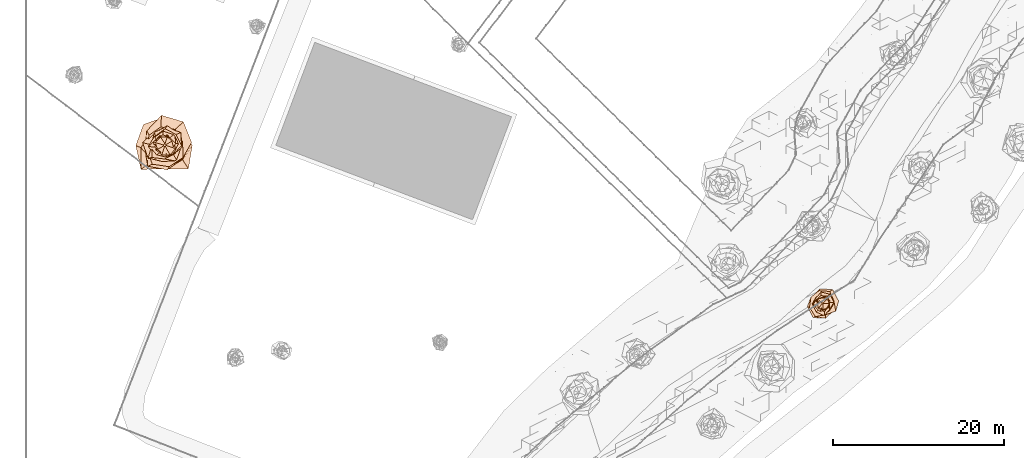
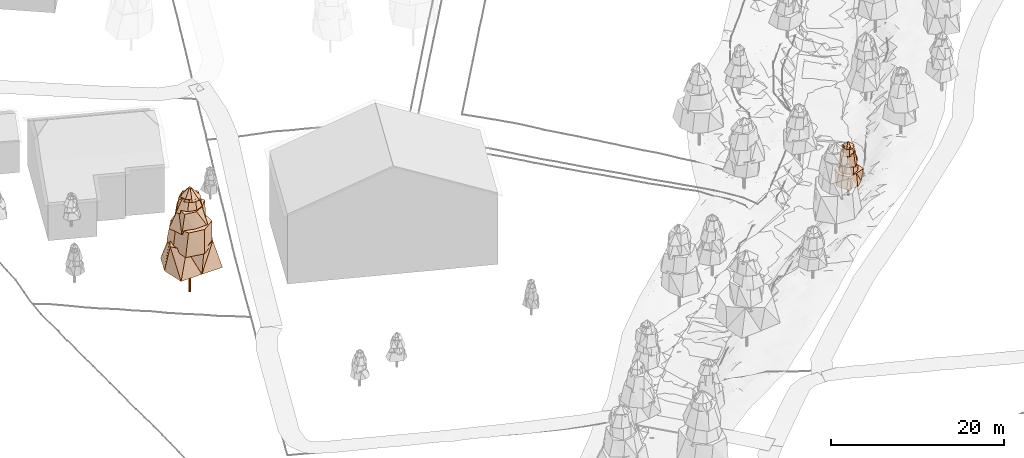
# Not in any storey, part 29 of 88: 2 geographic elements.
"""IFC4 model written with IfcOpenShell, lengths in metres."""

from ifc_helpers import new_model, si_unit, frame, origin_with_axes, place, context, subcontext, project, spatial, circle, extrude, faceted_brep, element, save


model = new_model("IFC4")

# Units and contexts
model_context = context("Model", 3, precision=1e-05, world=origin_with_axes())
body_context = subcontext(model_context, "Body", "Model", "MODEL_VIEW")
ifc_project = project(units=[si_unit("LENGTHUNIT", "METRE"), si_unit("AREAUNIT", "SQUARE_METRE"), si_unit("VOLUMEUNIT", "CUBIC_METRE"), si_unit("PLANEANGLEUNIT", "RADIAN")], contexts=[model_context])

# Sites
site_1_placement = place(None, origin_with_axes())
site_1 = spatial("IfcSite", under=ifc_project, at=site_1_placement, Name="CH907857693633", CompositionType="ELEMENT")
site_2_placement = place(None, origin_with_axes())
site_2 = spatial("IfcSite", under=site_1, at=site_2_placement, Name="Vegetation", CompositionType="ELEMENT")

# Geographic element
geographic_element_1_placement = place(None, frame((16.2100000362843, 69.5160034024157, 3.28009033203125), z_axis=(0.0, 0.0, 1.0), x_axis=(1.0, 0.0, 0.0)))
element("IfcGeographicElement", 1, at=geographic_element_1_placement, inside=site_2, Name="Tree_einzelbaum", ObjectType="VEGETATION", PredefinedType="USERDEFINED", context=body_context, shape_type="Brep", body=[
    extrude(circle(Radius=0.15), origin_with_axes(), (0.0, 0.0, 1.0), 4.0945993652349),
    faceted_brep([(2.78228915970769, -2.74959575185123, 4.0945993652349), (0.0163897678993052, -2.77322909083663, 4.0945993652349), (-2.78776216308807, -2.82090937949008, 4.0945993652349), (-3.38822057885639, -0.0200243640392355, 4.0945993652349), (-2.48184530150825, 2.45268227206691, 4.0945993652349), (-0.0187156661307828, 3.16678247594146, 4.0945993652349), (1.96377597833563, 1.98712578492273, 4.0945993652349), (3.23163587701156, 0.0190989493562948, 4.0945993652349), (2.9844214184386, 0.317266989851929, 7.45382912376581), (1.58185756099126, 1.95819211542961, 7.45382912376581), (-0.337566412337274, 3.17537110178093, 7.45382912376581), (-1.77858985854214, 1.43677210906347, 7.45382912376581), (-2.77864873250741, -0.295391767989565, 7.45382912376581), (-1.46719344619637, -1.8162486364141, 7.45382912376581), (0.293794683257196, -2.76362550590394, 7.45382912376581), (2.09579653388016, -1.69301651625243, 7.45382912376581), (3.23163587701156, 0.0190989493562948, 4.0945993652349), (1.96377597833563, 1.98712578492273, 4.0945993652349), (1.58185756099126, 1.95819211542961, 7.45382912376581), (2.9844214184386, 0.317266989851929, 7.45382912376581), (1.96377597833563, 1.98712578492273, 4.0945993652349), (-0.0187156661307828, 3.16678247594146, 4.0945993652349), (-0.337566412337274, 3.17537110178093, 7.45382912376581), (1.58185756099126, 1.95819211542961, 7.45382912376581), (-0.0187156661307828, 3.16678247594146, 4.0945993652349), (-2.48184530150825, 2.45268227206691, 4.0945993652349), (-1.77858985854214, 1.43677210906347, 7.45382912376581), (-0.337566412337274, 3.17537110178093, 7.45382912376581), (-2.48184530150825, 2.45268227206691, 4.0945993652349), (-3.38822057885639, -0.0200243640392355, 4.0945993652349), (-2.77864873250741, -0.295391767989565, 7.45382912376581), (-1.77858985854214, 1.43677210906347, 7.45382912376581), (-3.38822057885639, -0.0200243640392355, 4.0945993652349), (-2.78776216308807, -2.82090937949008, 4.0945993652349), (-1.46719344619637, -1.8162486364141, 7.45382912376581), (-2.77864873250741, -0.295391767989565, 7.45382912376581), (-2.78776216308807, -2.82090937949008, 4.0945993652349), (0.0163897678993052, -2.77322909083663, 4.0945993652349), (0.293794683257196, -2.76362550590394, 7.45382912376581), (-1.46719344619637, -1.8162486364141, 7.45382912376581), (0.0163897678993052, -2.77322909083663, 4.0945993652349), (2.78228915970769, -2.74959575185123, 4.0945993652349), (2.09579653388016, -1.69301651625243, 7.45382912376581), (0.293794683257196, -2.76362550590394, 7.45382912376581), (2.78228915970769, -2.74959575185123, 4.0945993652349), (3.23163587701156, 0.0190989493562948, 4.0945993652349), (2.9844214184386, 0.317266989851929, 7.45382912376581), (2.09579653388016, -1.69301651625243, 7.45382912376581)], [[[0, 1, 2, 3, 4, 5, 6, 7]], [[8, 9, 10, 11, 12, 13, 14, 15]], [[16, 17, 18, 19]], [[20, 21, 22, 23]], [[24, 25, 26, 27]], [[28, 29, 30, 31]], [[32, 33, 34, 35]], [[36, 37, 38, 39]], [[40, 41, 42, 43]], [[44, 45, 46, 47]]]),
    faceted_brep([(2.02600021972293, -1.62996782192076, 6.94994465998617), (0.312094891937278, -2.88110002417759, 6.94994465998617), (-1.97864971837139, -2.45940116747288, 6.94994465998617), (-2.37405962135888, -0.25716978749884, 6.94994465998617), (-2.09876587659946, 1.6885096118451, 6.94994465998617), (-0.380197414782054, 3.50978759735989, 6.94994465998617), (2.20308797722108, 2.73837106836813, 6.94994465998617), (3.15018583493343, 0.341243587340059, 6.94994465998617), (2.08651934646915, 0.440156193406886, 10.0796045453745), (1.21232558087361, 1.86055754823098, 10.0796045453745), (-0.453337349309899, 2.1490033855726, 10.0796045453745), (-1.82984216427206, 1.19231166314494, 10.0796045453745), (-2.14084580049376, -0.451616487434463, 10.0796045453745), (-1.4443806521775, -2.21669274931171, 10.0796045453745), (0.529818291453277, -2.51155415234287, 10.0796045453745), (2.16187846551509, -1.40866406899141, 10.0796045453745), (3.15018583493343, 0.341243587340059, 6.94994465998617), (2.20308797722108, 2.73837106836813, 6.94994465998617), (1.21232558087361, 1.86055754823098, 10.0796045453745), (2.08651934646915, 0.440156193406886, 10.0796045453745), (2.20308797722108, 2.73837106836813, 6.94994465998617), (-0.380197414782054, 3.50978759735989, 6.94994465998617), (-0.453337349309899, 2.1490033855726, 10.0796045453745), (1.21232558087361, 1.86055754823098, 10.0796045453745), (-0.380197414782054, 3.50978759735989, 6.94994465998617), (-2.09876587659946, 1.6885096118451, 6.94994465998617), (-1.82984216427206, 1.19231166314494, 10.0796045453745), (-0.453337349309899, 2.1490033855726, 10.0796045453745), (-2.09876587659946, 1.6885096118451, 6.94994465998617), (-2.37405962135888, -0.25716978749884, 6.94994465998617), (-2.14084580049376, -0.451616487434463, 10.0796045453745), (-1.82984216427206, 1.19231166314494, 10.0796045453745), (-2.37405962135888, -0.25716978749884, 6.94994465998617), (-1.97864971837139, -2.45940116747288, 6.94994465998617), (-1.4443806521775, -2.21669274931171, 10.0796045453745), (-2.14084580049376, -0.451616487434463, 10.0796045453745), (-1.97864971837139, -2.45940116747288, 6.94994465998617), (0.312094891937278, -2.88110002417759, 6.94994465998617), (0.529818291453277, -2.51155415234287, 10.0796045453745), (-1.4443806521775, -2.21669274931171, 10.0796045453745), (0.312094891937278, -2.88110002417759, 6.94994465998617), (2.02600021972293, -1.62996782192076, 6.94994465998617), (2.16187846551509, -1.40866406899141, 10.0796045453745), (0.529818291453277, -2.51155415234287, 10.0796045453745), (2.02600021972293, -1.62996782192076, 6.94994465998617), (3.15018583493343, 0.341243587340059, 6.94994465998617), (2.08651934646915, 0.440156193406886, 10.0796045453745), (2.16187846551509, -1.40866406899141, 10.0796045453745)], [[[0, 1, 2, 3, 4, 5, 6, 7]], [[8, 9, 10, 11, 12, 13, 14, 15]], [[16, 17, 18, 19]], [[20, 21, 22, 23]], [[24, 25, 26, 27]], [[28, 29, 30, 31]], [[32, 33, 34, 35]], [[36, 37, 38, 39]], [[40, 41, 42, 43]], [[44, 45, 46, 47]]]),
    faceted_brep([(2.03890685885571, -0.248926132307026, 9.61015556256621), (1.46600902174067, -1.87375414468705, 9.61015556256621), (-0.239329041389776, -1.9602989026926, 9.61015556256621), (-1.94073008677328, -1.51841041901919, 9.61015556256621), (-2.59884151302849, 0.317287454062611, 9.61015556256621), (-1.2250604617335, 1.56578989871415, 9.61015556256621), (0.278321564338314, 2.27967928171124, 9.61015556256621), (1.89201519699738, 1.48029631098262, 9.61015556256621), (1.328799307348, 1.27288872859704, 12.2493277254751), (0.0412673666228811, 1.92029516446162, 12.2493277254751), (-1.06914277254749, 1.11610397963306, 12.2493277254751), (-1.51838437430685, 0.0326302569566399, 12.2493277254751), (-1.4936477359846, -1.43080099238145, 12.2493277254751), (-0.0344787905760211, -1.60440222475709, 12.2493277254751), (1.02501083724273, -1.07003358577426, 12.2493277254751), (1.96179204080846, -0.0421591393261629, 12.2493277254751), (1.89201519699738, 1.48029631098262, 9.61015556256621), (0.278321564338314, 2.27967928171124, 9.61015556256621), (0.0412673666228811, 1.92029516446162, 12.2493277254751), (1.328799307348, 1.27288872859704, 12.2493277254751), (0.278321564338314, 2.27967928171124, 9.61015556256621), (-1.2250604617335, 1.56578989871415, 9.61015556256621), (-1.06914277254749, 1.11610397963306, 12.2493277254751), (0.0412673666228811, 1.92029516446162, 12.2493277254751), (-1.2250604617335, 1.56578989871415, 9.61015556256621), (-2.59884151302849, 0.317287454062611, 9.61015556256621), (-1.51838437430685, 0.0326302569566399, 12.2493277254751), (-1.06914277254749, 1.11610397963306, 12.2493277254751), (-2.59884151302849, 0.317287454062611, 9.61015556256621), (-1.94073008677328, -1.51841041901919, 9.61015556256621), (-1.4936477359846, -1.43080099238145, 12.2493277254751), (-1.51838437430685, 0.0326302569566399, 12.2493277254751), (-1.94073008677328, -1.51841041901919, 9.61015556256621), (-0.239329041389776, -1.9602989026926, 9.61015556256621), (-0.0344787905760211, -1.60440222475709, 12.2493277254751), (-1.4936477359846, -1.43080099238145, 12.2493277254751), (-0.239329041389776, -1.9602989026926, 9.61015556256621), (1.46600902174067, -1.87375414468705, 9.61015556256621), (1.02501083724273, -1.07003358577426, 12.2493277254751), (-0.0344787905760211, -1.60440222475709, 12.2493277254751), (1.46600902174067, -1.87375414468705, 9.61015556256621), (2.03890685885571, -0.248926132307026, 9.61015556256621), (1.96179204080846, -0.0421591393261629, 12.2493277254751), (1.02501083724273, -1.07003358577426, 12.2493277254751), (2.03890685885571, -0.248926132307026, 9.61015556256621), (1.89201519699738, 1.48029631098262, 9.61015556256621), (1.328799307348, 1.27288872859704, 12.2493277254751), (1.96179204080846, -0.0421591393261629, 12.2493277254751)], [[[0, 1, 2, 3, 4, 5, 6, 7]], [[8, 9, 10, 11, 12, 13, 14, 15]], [[16, 17, 18, 19]], [[20, 21, 22, 23]], [[24, 25, 26, 27]], [[28, 29, 30, 31]], [[32, 33, 34, 35]], [[36, 37, 38, 39]], [[40, 41, 42, 43]], [[44, 45, 46, 47]]]),
    faceted_brep([(1.1964013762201, -1.02409129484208, 11.8534519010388), (0.116038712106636, -1.4953455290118, 11.8534519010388), (-1.04159197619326, -1.21684666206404, 11.8534519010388), (-1.93536777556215, -0.150184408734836, 11.8534519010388), (-1.21016483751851, 1.03587249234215, 11.8534519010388), (-0.1396793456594, 1.79999313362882, 11.8534519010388), (1.15791271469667, 1.3527391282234, 11.8534519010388), (1.70697067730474, 0.132460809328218, 11.8534519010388), (1.29329978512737, 0.231928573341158, 13.5857067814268), (0.617114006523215, 0.886814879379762, 13.5857067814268), (-0.221188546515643, 1.23341033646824, 13.5857067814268), (-0.966627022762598, 0.672653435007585, 13.5857067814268), (-1.13586074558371, -0.203694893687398, 13.5857067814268), (-0.563340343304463, -0.809540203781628, 13.5857067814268), (0.17615289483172, -0.982278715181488, 13.5857067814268), (0.775154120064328, -0.539411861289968, 13.5857067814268), (1.70697067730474, 0.132460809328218, 11.8534519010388), (1.15791271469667, 1.3527391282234, 11.8534519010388), (0.617114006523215, 0.886814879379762, 13.5857067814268), (1.29329978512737, 0.231928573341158, 13.5857067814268), (1.15791271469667, 1.3527391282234, 11.8534519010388), (-0.1396793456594, 1.79999313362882, 11.8534519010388), (-0.221188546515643, 1.23341033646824, 13.5857067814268), (0.617114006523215, 0.886814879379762, 13.5857067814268), (-0.1396793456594, 1.79999313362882, 11.8534519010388), (-1.21016483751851, 1.03587249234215, 11.8534519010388), (-0.966627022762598, 0.672653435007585, 13.5857067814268), (-0.221188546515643, 1.23341033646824, 13.5857067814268), (-1.21016483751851, 1.03587249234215, 11.8534519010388), (-1.93536777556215, -0.150184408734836, 11.8534519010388), (-1.13586074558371, -0.203694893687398, 13.5857067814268), (-0.966627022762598, 0.672653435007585, 13.5857067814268), (-1.93536777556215, -0.150184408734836, 11.8534519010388), (-1.04159197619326, -1.21684666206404, 11.8534519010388), (-0.563340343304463, -0.809540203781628, 13.5857067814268), (-1.13586074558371, -0.203694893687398, 13.5857067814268), (-1.04159197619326, -1.21684666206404, 11.8534519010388), (0.116038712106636, -1.4953455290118, 11.8534519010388), (0.17615289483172, -0.982278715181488, 13.5857067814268), (-0.563340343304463, -0.809540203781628, 13.5857067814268), (0.116038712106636, -1.4953455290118, 11.8534519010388), (1.1964013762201, -1.02409129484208, 11.8534519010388), (0.775154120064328, -0.539411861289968, 13.5857067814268), (0.17615289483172, -0.982278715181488, 13.5857067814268), (1.1964013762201, -1.02409129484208, 11.8534519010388), (1.70697067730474, 0.132460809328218, 11.8534519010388), (1.29329978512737, 0.231928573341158, 13.5857067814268), (0.775154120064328, -0.539411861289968, 13.5857067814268)], [[[0, 1, 2, 3, 4, 5, 6, 7]], [[8, 9, 10, 11, 12, 13, 14, 15]], [[16, 17, 18, 19]], [[20, 21, 22, 23]], [[24, 25, 26, 27]], [[28, 29, 30, 31]], [[32, 33, 34, 35]], [[36, 37, 38, 39]], [[40, 41, 42, 43]], [[44, 45, 46, 47]]]),
    faceted_brep([(1.25667503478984, -0.374881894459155, 13.3258685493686), (0.621070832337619, -1.14914981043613, 13.3258685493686), (-0.339611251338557, -1.1384411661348, 13.3258685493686), (-1.02627184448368, -0.554660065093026, 13.3258685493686), (-1.33859538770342, 0.399319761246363, 13.3258685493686), (-0.611547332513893, 1.13152874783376, 13.3258685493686), (0.356575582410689, 1.19530881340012, 13.3258685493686), (1.02218429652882, 0.552450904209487, 13.3258685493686), (0.135309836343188, 0.0916773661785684, 14.6658731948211), (0.0339074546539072, 0.17639519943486, 14.6658731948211), (-0.0766710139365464, 0.113161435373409, 14.6658731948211), (-0.145414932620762, 0.0279522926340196, 14.6658731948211), (-0.127217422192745, -0.0861944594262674, 14.6658731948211), (-0.0325662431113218, -0.169417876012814, 14.6658731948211), (0.0868147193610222, -0.128132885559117, 14.6658731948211), (0.16440735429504, -0.0316030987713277, 14.6658731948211), (1.02218429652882, 0.552450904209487, 13.3258685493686), (0.356575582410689, 1.19530881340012, 13.3258685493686), (0.0339074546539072, 0.17639519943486, 14.6658731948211), (0.135309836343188, 0.0916773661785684, 14.6658731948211), (0.356575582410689, 1.19530881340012, 13.3258685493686), (-0.611547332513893, 1.13152874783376, 13.3258685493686), (-0.0766710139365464, 0.113161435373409, 14.6658731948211), (0.0339074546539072, 0.17639519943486, 14.6658731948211), (-0.611547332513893, 1.13152874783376, 13.3258685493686), (-1.33859538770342, 0.399319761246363, 13.3258685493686), (-0.145414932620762, 0.0279522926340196, 14.6658731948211), (-0.0766710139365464, 0.113161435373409, 14.6658731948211), (-1.33859538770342, 0.399319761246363, 13.3258685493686), (-1.02627184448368, -0.554660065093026, 13.3258685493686), (-0.127217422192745, -0.0861944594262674, 14.6658731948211), (-0.145414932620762, 0.0279522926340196, 14.6658731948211), (-1.02627184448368, -0.554660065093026, 13.3258685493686), (-0.339611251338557, -1.1384411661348, 13.3258685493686), (-0.0325662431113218, -0.169417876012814, 14.6658731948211), (-0.127217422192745, -0.0861944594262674, 14.6658731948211), (-0.339611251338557, -1.1384411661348, 13.3258685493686), (0.621070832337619, -1.14914981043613, 13.3258685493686), (0.0868147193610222, -0.128132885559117, 14.6658731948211), (-0.0325662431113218, -0.169417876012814, 14.6658731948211), (0.621070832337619, -1.14914981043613, 13.3258685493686), (1.25667503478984, -0.374881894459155, 13.3258685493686), (0.16440735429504, -0.0316030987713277, 14.6658731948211), (0.0868147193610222, -0.128132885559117, 14.6658731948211), (1.25667503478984, -0.374881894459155, 13.3258685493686), (1.02218429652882, 0.552450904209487, 13.3258685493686), (0.135309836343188, 0.0916773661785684, 14.6658731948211), (0.16440735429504, -0.0316030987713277, 14.6658731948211)], [[[0, 1, 2, 3, 4, 5, 6, 7]], [[8, 9, 10, 11, 12, 13, 14, 15]], [[16, 17, 18, 19]], [[20, 21, 22, 23]], [[24, 25, 26, 27]], [[28, 29, 30, 31]], [[32, 33, 34, 35]], [[36, 37, 38, 39]], [[40, 41, 42, 43]], [[44, 45, 46, 47]]]),
])

# Site
site_3_placement = place(None, origin_with_axes())
site_3 = spatial("IfcSite", under=site_1, at=site_3_placement, Name="Simulated_forest", CompositionType="ELEMENT")

# Geographic element
geographic_element_2_placement = place(None, frame((93.3055268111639, 50.9487321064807, 1.1121826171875), z_axis=(0.0, 0.0, 1.0), x_axis=(1.0, 0.0, 0.0)))
element("IfcGeographicElement", 2, at=geographic_element_2_placement, inside=site_3, Name="Tree_SIMULATED_WOODED_AREA", ObjectType="VEGETATION", PredefinedType="USERDEFINED", context=body_context, shape_type="Brep", body=[
    extrude(circle(Radius=0.15), origin_with_axes(), (0.0, 0.0, 1.0), 2.13100857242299),
    faceted_brep([(1.22627783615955, -0.865113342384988, 2.13100857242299), (0.293922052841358, -1.70201113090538, 2.13100857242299), (-1.13833495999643, -1.61356305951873, 2.13100857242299), (-1.80541057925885, -0.311778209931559, 2.13100857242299), (-1.19511633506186, 0.843129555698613, 2.13100857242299), (-0.303213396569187, 1.7558144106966, 2.13100857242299), (1.1658255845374, 1.65253037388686, 2.13100857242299), (1.86614633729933, 0.322266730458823, 2.13100857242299), (1.30384137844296, 0.362259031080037, 3.76885237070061), (0.816024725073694, 1.44393013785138, 3.76885237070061), (-0.425322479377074, 1.53081911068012, 3.76885237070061), (-1.37755164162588, 0.778511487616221, 3.76885237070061), (-1.55189900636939, -0.431179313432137, 3.76885237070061), (-0.854420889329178, -1.51187094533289, 3.76885237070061), (0.355819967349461, -1.28066592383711, 3.76885237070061), (1.52521161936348, -0.861960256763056, 3.76885237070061), (1.86614633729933, 0.322266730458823, 2.13100857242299), (1.1658255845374, 1.65253037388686, 2.13100857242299), (0.816024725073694, 1.44393013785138, 3.76885237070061), (1.30384137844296, 0.362259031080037, 3.76885237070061), (1.1658255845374, 1.65253037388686, 2.13100857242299), (-0.303213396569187, 1.7558144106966, 2.13100857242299), (-0.425322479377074, 1.53081911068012, 3.76885237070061), (0.816024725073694, 1.44393013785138, 3.76885237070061), (-0.303213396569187, 1.7558144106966, 2.13100857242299), (-1.19511633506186, 0.843129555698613, 2.13100857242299), (-1.37755164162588, 0.778511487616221, 3.76885237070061), (-0.425322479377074, 1.53081911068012, 3.76885237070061), (-1.19511633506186, 0.843129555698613, 2.13100857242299), (-1.80541057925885, -0.311778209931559, 2.13100857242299), (-1.55189900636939, -0.431179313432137, 3.76885237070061), (-1.37755164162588, 0.778511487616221, 3.76885237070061), (-1.80541057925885, -0.311778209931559, 2.13100857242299), (-1.13833495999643, -1.61356305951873, 2.13100857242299), (-0.854420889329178, -1.51187094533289, 3.76885237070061), (-1.55189900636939, -0.431179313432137, 3.76885237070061), (-1.13833495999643, -1.61356305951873, 2.13100857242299), (0.293922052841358, -1.70201113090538, 2.13100857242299), (0.355819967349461, -1.28066592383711, 3.76885237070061), (-0.854420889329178, -1.51187094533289, 3.76885237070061), (0.293922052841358, -1.70201113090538, 2.13100857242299), (1.22627783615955, -0.865113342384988, 2.13100857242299), (1.52521161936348, -0.861960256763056, 3.76885237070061), (0.355819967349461, -1.28066592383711, 3.76885237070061), (1.22627783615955, -0.865113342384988, 2.13100857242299), (1.86614633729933, 0.322266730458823, 2.13100857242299), (1.30384137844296, 0.362259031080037, 3.76885237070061), (1.52521161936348, -0.861960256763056, 3.76885237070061)], [[[0, 1, 2, 3, 4, 5, 6, 7]], [[8, 9, 10, 11, 12, 13, 14, 15]], [[16, 17, 18, 19]], [[20, 21, 22, 23]], [[24, 25, 26, 27]], [[28, 29, 30, 31]], [[32, 33, 34, 35]], [[36, 37, 38, 39]], [[40, 41, 42, 43]], [[44, 45, 46, 47]]]),
    faceted_brep([(1.34778176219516, -0.0252875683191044, 3.52317580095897), (0.840987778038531, -0.873149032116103, 3.52317580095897), (-0.0250334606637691, -1.33423828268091, 3.52317580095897), (-0.848283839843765, -0.817038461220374, 3.52317580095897), (-1.28518227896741, 0.0241130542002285, 3.52317580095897), (-0.804474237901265, 0.835239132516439, 3.52317580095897), (0.026731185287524, 1.4247239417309, 3.52317580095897), (0.758653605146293, 0.730709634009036, 3.52317580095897), (0.64600119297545, 0.760518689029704, 4.9894133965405), (-0.0680683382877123, 0.836024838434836, 4.9894133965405), (-0.621197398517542, 0.527658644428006, 4.9894133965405), (-0.987037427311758, -0.0803636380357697, 4.9894133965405), (-0.62974363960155, -0.741379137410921, 4.9894133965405), (0.0806041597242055, -0.989991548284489, 4.9894133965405), (0.629212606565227, -0.534466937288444, 4.9894133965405), (0.829777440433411, 0.0675596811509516, 4.9894133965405), (0.758653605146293, 0.730709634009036, 3.52317580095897), (0.026731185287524, 1.4247239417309, 3.52317580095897), (-0.0680683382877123, 0.836024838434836, 4.9894133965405), (0.64600119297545, 0.760518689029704, 4.9894133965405), (0.026731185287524, 1.4247239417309, 3.52317580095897), (-0.804474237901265, 0.835239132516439, 3.52317580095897), (-0.621197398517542, 0.527658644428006, 4.9894133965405), (-0.0680683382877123, 0.836024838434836, 4.9894133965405), (-0.804474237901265, 0.835239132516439, 3.52317580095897), (-1.28518227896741, 0.0241130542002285, 3.52317580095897), (-0.987037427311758, -0.0803636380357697, 4.9894133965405), (-0.621197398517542, 0.527658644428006, 4.9894133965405), (-1.28518227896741, 0.0241130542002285, 3.52317580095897), (-0.848283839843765, -0.817038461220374, 3.52317580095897), (-0.62974363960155, -0.741379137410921, 4.9894133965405), (-0.987037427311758, -0.0803636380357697, 4.9894133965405), (-0.848283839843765, -0.817038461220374, 3.52317580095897), (-0.0250334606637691, -1.33423828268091, 3.52317580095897), (0.0806041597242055, -0.989991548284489, 4.9894133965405), (-0.62974363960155, -0.741379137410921, 4.9894133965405), (-0.0250334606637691, -1.33423828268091, 3.52317580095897), (0.840987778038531, -0.873149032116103, 3.52317580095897), (0.629212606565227, -0.534466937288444, 4.9894133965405), (0.0806041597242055, -0.989991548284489, 4.9894133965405), (0.840987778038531, -0.873149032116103, 3.52317580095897), (1.34778176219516, -0.0252875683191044, 3.52317580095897), (0.829777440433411, 0.0675596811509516, 4.9894133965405), (0.629212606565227, -0.534466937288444, 4.9894133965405), (1.34778176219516, -0.0252875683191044, 3.52317580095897), (0.758653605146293, 0.730709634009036, 3.52317580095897), (0.64600119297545, 0.760518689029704, 4.9894133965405), (0.829777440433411, 0.0675596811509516, 4.9894133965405)], [[[0, 1, 2, 3, 4, 5, 6, 7]], [[8, 9, 10, 11, 12, 13, 14, 15]], [[16, 17, 18, 19]], [[20, 21, 22, 23]], [[24, 25, 26, 27]], [[28, 29, 30, 31]], [[32, 33, 34, 35]], [[36, 37, 38, 39]], [[40, 41, 42, 43]], [[44, 45, 46, 47]]]),
    faceted_brep([(0.825456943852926, -0.641492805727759, 4.76947775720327), (0.174716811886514, -1.39321057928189, 4.76947775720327), (-0.760023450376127, -0.977979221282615, 4.76947775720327), (-1.16176150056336, -0.145691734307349, 4.76947775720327), (-0.836194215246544, 0.649837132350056, 4.76947775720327), (-0.171609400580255, 1.36843174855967, 4.76947775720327), (0.861213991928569, 1.10818868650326, 4.76947775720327), (1.30022750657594, 0.163056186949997, 4.76947775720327), (0.772925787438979, 0.176704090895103, 6.30001909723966), (0.565451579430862, 0.900620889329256, 6.30001909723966), (-0.216874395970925, 0.948635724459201, 6.30001909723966), (-0.749622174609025, 0.470647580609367, 6.30001909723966), (-0.765532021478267, -0.175013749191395, 6.30001909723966), (-0.40187987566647, -0.640092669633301, 6.30001909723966), (0.210362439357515, -0.920151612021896, 6.30001909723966), (0.654424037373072, -0.410877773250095, 6.30001909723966), (1.30022750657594, 0.163056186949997, 4.76947775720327), (0.861213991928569, 1.10818868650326, 4.76947775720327), (0.565451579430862, 0.900620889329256, 6.30001909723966), (0.772925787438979, 0.176704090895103, 6.30001909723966), (0.861213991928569, 1.10818868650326, 4.76947775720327), (-0.171609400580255, 1.36843174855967, 4.76947775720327), (-0.216874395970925, 0.948635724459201, 6.30001909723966), (0.565451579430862, 0.900620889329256, 6.30001909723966), (-0.171609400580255, 1.36843174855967, 4.76947775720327), (-0.836194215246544, 0.649837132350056, 4.76947775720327), (-0.749622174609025, 0.470647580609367, 6.30001909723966), (-0.216874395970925, 0.948635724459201, 6.30001909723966), (-0.836194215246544, 0.649837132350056, 4.76947775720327), (-1.16176150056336, -0.145691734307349, 4.76947775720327), (-0.765532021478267, -0.175013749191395, 6.30001909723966), (-0.749622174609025, 0.470647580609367, 6.30001909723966), (-1.16176150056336, -0.145691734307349, 4.76947775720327), (-0.760023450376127, -0.977979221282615, 4.76947775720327), (-0.40187987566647, -0.640092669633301, 6.30001909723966), (-0.765532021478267, -0.175013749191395, 6.30001909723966), (-0.760023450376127, -0.977979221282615, 4.76947775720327), (0.174716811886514, -1.39321057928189, 4.76947775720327), (0.210362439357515, -0.920151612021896, 6.30001909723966), (-0.40187987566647, -0.640092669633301, 6.30001909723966), (0.174716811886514, -1.39321057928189, 4.76947775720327), (0.825456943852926, -0.641492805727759, 4.76947775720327), (0.654424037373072, -0.410877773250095, 6.30001909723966), (0.210362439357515, -0.920151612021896, 6.30001909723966), (0.825456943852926, -0.641492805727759, 4.76947775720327), (1.30022750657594, 0.163056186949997, 4.76947775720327), (0.772925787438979, 0.176704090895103, 6.30001909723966), (0.654424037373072, -0.410877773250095, 6.30001909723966)], [[[0, 1, 2, 3, 4, 5, 6, 7]], [[8, 9, 10, 11, 12, 13, 14, 15]], [[16, 17, 18, 19]], [[20, 21, 22, 23]], [[24, 25, 26, 27]], [[28, 29, 30, 31]], [[32, 33, 34, 35]], [[36, 37, 38, 39]], [[40, 41, 42, 43]], [[44, 45, 46, 47]]]),
    faceted_brep([(0.810707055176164, -0.301427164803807, 6.0704378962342), (0.349335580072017, -0.76285763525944, 6.0704378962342), (-0.332333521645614, -0.893831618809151, 6.0704378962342), (-0.849704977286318, -0.389105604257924, 6.0704378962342), (-0.778488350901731, 0.289448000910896, 6.0704378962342), (-0.350535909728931, 0.76547884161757, 6.0704378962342), (0.364591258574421, 0.980590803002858, 6.0704378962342), (0.826712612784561, 0.378576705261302, 6.0704378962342), (0.455928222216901, 0.266786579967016, 7.07083771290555), (0.115350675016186, 0.440757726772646, 7.07083771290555), (-0.276402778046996, 0.472361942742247, 7.07083771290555), (-0.612961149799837, 0.160418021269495, 7.07083771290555), (-0.391637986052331, -0.229167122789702, 7.07083771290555), (-0.14602776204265, -0.557975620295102, 7.07083771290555), (0.250351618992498, -0.427841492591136, 7.07083771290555), (0.524141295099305, -0.137172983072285, 7.07083771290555), (0.826712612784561, 0.378576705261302, 6.0704378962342), (0.364591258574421, 0.980590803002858, 6.0704378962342), (0.115350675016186, 0.440757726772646, 7.07083771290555), (0.455928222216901, 0.266786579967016, 7.07083771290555), (0.364591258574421, 0.980590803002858, 6.0704378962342), (-0.350535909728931, 0.76547884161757, 6.0704378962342), (-0.276402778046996, 0.472361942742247, 7.07083771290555), (0.115350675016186, 0.440757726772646, 7.07083771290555), (-0.350535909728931, 0.76547884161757, 6.0704378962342), (-0.778488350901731, 0.289448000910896, 6.0704378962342), (-0.612961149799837, 0.160418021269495, 7.07083771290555), (-0.276402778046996, 0.472361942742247, 7.07083771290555), (-0.778488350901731, 0.289448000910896, 6.0704378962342), (-0.849704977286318, -0.389105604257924, 6.0704378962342), (-0.391637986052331, -0.229167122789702, 7.07083771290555), (-0.612961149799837, 0.160418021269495, 7.07083771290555), (-0.849704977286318, -0.389105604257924, 6.0704378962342), (-0.332333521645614, -0.893831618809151, 6.0704378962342), (-0.14602776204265, -0.557975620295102, 7.07083771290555), (-0.391637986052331, -0.229167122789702, 7.07083771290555), (-0.332333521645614, -0.893831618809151, 6.0704378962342), (0.349335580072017, -0.76285763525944, 6.0704378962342), (0.250351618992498, -0.427841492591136, 7.07083771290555), (-0.14602776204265, -0.557975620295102, 7.07083771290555), (0.349335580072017, -0.76285763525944, 6.0704378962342), (0.810707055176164, -0.301427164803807, 6.0704378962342), (0.524141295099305, -0.137172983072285, 7.07083771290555), (0.250351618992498, -0.427841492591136, 7.07083771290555), (0.810707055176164, -0.301427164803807, 6.0704378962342), (0.826712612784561, 0.378576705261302, 6.0704378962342), (0.455928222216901, 0.266786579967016, 7.07083771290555), (0.524141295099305, -0.137172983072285, 7.07083771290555)], [[[0, 1, 2, 3, 4, 5, 6, 7]], [[8, 9, 10, 11, 12, 13, 14, 15]], [[16, 17, 18, 19]], [[20, 21, 22, 23]], [[24, 25, 26, 27]], [[28, 29, 30, 31]], [[32, 33, 34, 35]], [[36, 37, 38, 39]], [[40, 41, 42, 43]], [[44, 45, 46, 47]]]),
    faceted_brep([(0.51824225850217, -0.498618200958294, 6.92077774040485), (0.0135182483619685, -0.700475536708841, 6.92077774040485), (-0.513630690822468, -0.533845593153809, 6.92077774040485), (-0.622002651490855, -0.0120038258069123, 6.92077774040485), (-0.588501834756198, 0.566217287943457, 6.92077774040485), (-0.0131533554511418, 0.681567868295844, 6.92077774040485), (0.555514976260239, 0.577378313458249, 6.92077774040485), (0.754923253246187, 0.0145690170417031, 6.92077774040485), (0.0834729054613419, 0.0100055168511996, 7.53454471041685), (0.0583695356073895, 0.0742682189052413, 7.53454471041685), (-0.00902453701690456, 0.0752888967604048, 7.53454471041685), (-0.0765066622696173, 0.0601287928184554, 7.53454471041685), (-0.0933744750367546, -0.011192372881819, 7.53454471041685), (-0.0496923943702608, -0.0632275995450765, 7.53454471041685), (0.0119858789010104, -0.0999944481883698, 7.53454471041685), (0.0630364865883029, -0.0495421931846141, 7.53454471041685), (0.754923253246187, 0.0145690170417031, 6.92077774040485), (0.555514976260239, 0.577378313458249, 6.92077774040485), (0.0583695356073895, 0.0742682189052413, 7.53454471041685), (0.0834729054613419, 0.0100055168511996, 7.53454471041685), (0.555514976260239, 0.577378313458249, 6.92077774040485), (-0.0131533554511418, 0.681567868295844, 6.92077774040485), (-0.00902453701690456, 0.0752888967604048, 7.53454471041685), (0.0583695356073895, 0.0742682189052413, 7.53454471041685), (-0.0131533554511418, 0.681567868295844, 6.92077774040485), (-0.588501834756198, 0.566217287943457, 6.92077774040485), (-0.0765066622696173, 0.0601287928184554, 7.53454471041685), (-0.00902453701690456, 0.0752888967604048, 7.53454471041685), (-0.588501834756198, 0.566217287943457, 6.92077774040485), (-0.622002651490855, -0.0120038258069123, 6.92077774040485), (-0.0933744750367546, -0.011192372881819, 7.53454471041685), (-0.0765066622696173, 0.0601287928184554, 7.53454471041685), (-0.622002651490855, -0.0120038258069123, 6.92077774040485), (-0.513630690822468, -0.533845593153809, 6.92077774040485), (-0.0496923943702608, -0.0632275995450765, 7.53454471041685), (-0.0933744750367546, -0.011192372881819, 7.53454471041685), (-0.513630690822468, -0.533845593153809, 6.92077774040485), (0.0135182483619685, -0.700475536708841, 6.92077774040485), (0.0119858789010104, -0.0999944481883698, 7.53454471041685), (-0.0496923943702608, -0.0632275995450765, 7.53454471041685), (0.0135182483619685, -0.700475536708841, 6.92077774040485), (0.51824225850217, -0.498618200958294, 6.92077774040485), (0.0630364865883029, -0.0495421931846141, 7.53454471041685), (0.0119858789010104, -0.0999944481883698, 7.53454471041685), (0.51824225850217, -0.498618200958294, 6.92077774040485), (0.754923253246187, 0.0145690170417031, 6.92077774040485), (0.0834729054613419, 0.0100055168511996, 7.53454471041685), (0.0630364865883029, -0.0495421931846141, 7.53454471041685)], [[[0, 1, 2, 3, 4, 5, 6, 7]], [[8, 9, 10, 11, 12, 13, 14, 15]], [[16, 17, 18, 19]], [[20, 21, 22, 23]], [[24, 25, 26, 27]], [[28, 29, 30, 31]], [[32, 33, 34, 35]], [[36, 37, 38, 39]], [[40, 41, 42, 43]], [[44, 45, 46, 47]]]),
])

save(model, "model.ifc")
